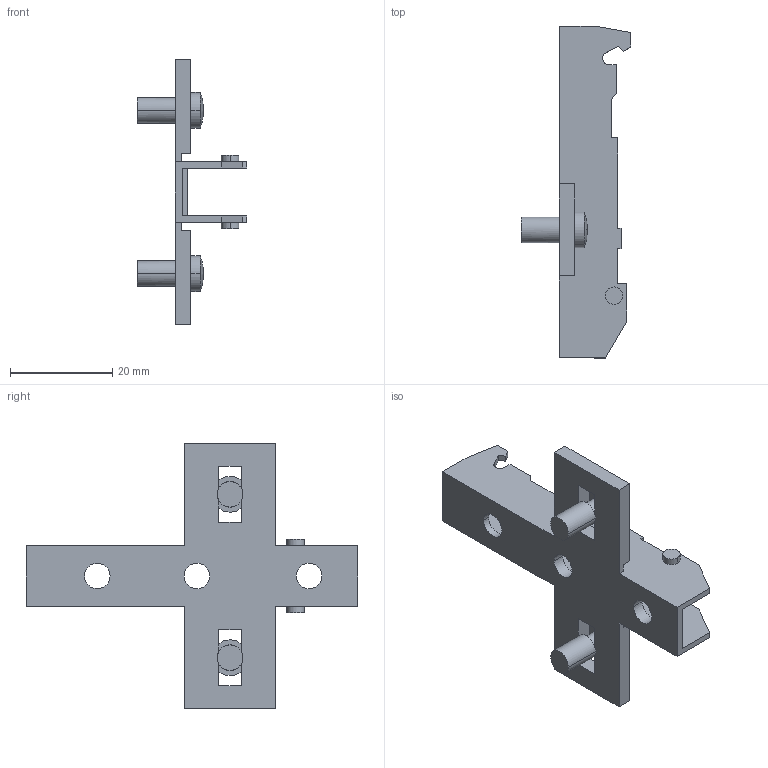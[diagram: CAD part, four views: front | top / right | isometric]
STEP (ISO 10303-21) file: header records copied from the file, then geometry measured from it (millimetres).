
FILE_DESCRIPTION (( 'STEP AP214' ), '1' );
FILE_NAME ('Eco Kreuzmontageplatte LR37_32_Dübel 5mm_kurz_H3,5.step', '2010-11-18T10:07:18', ( 'grass' ), ( '' ), 'SwSTEP 2.0', 'SolidWorks 2010', '' );
FILE_SCHEMA (( 'AUTOMOTIVE_DESIGN' ));
Length unit declared in the file: millimetre
Products named in the file (1): Eco Kreuzmontageplatte LR37_32_Dübel 5mm_kurz_H3,5
Bounding box: 21.5 x 65 x 52 mm (x, y, z)
Volume: 5127.7 mm3; surface area: 6730.1 mm2
Topology: 1 solids, 1 shells, 104 faces, 310 edges, 202 vertices
Faces by surface type: plane 76, cylinder 24, sphere 4
Entity records: 3552 total; most frequent: ORIENTED_EDGE 620, CARTESIAN_POINT 617, DIRECTION 592, EDGE_CURVE 310, VECTOR 238, LINE 238, VERTEX_POINT 202, AXIS2_PLACEMENT_3D 177
